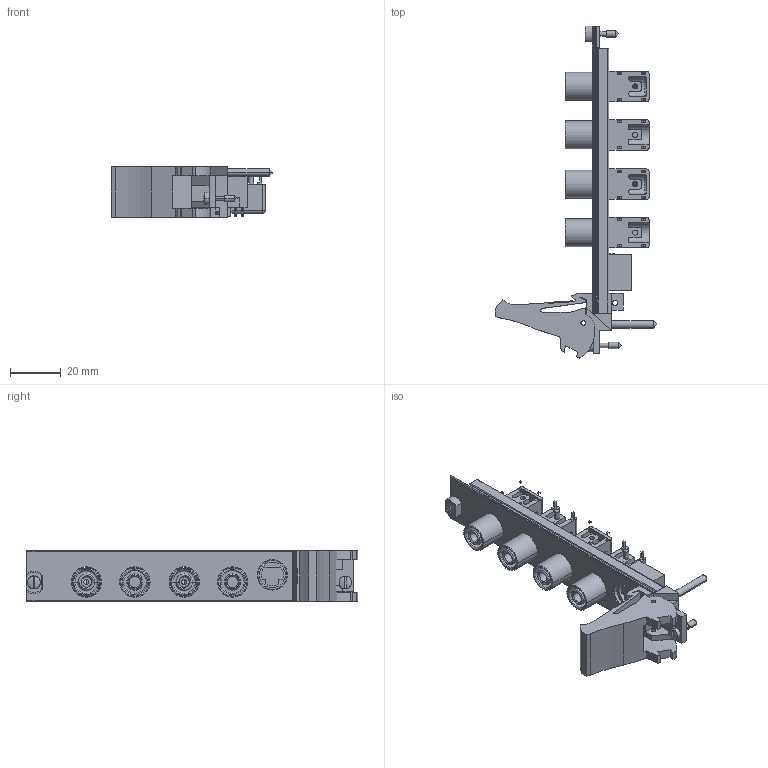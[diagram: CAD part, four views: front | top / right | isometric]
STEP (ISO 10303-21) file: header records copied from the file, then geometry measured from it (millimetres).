
FILE_DESCRIPTION((''),'2;1');
FILE_NAME('CU_PXI-4072','2009-12-07T',('jjorden'),(''),'PRO/ENGINEER BY PARAMETRIC TECHNOLOGY CORPORATION, 2006080','PRO/ENGINEER BY PARAMETRIC TECHNOLOGY CORPORATION, 2006080','');
FILE_SCHEMA(('CONFIG_CONTROL_DESIGN'));
Length unit declared in the file: inch
Products named in the file (1): CU_PXI-4072
Bounding box: 63.53 x 130.5 x 20.03 mm (x, y, z)
Volume: 26510.6 mm3; surface area: 28050.8 mm2
Topology: 24 solids, 24 shells, 832 faces, 2082 edges, 1352 vertices
Faces by surface type: plane 472, cylinder 224, extrusion 72, torus 30, cone 22, sphere 12
Entity records: 25591 total; most frequent: CARTESIAN_POINT 5443, ORIENTED_EDGE 4156, DIRECTION 4035, EDGE_CURVE 2078, VECTOR 1459, LINE 1387, VERTEX_POINT 1352, AXIS2_PLACEMENT_3D 1288
